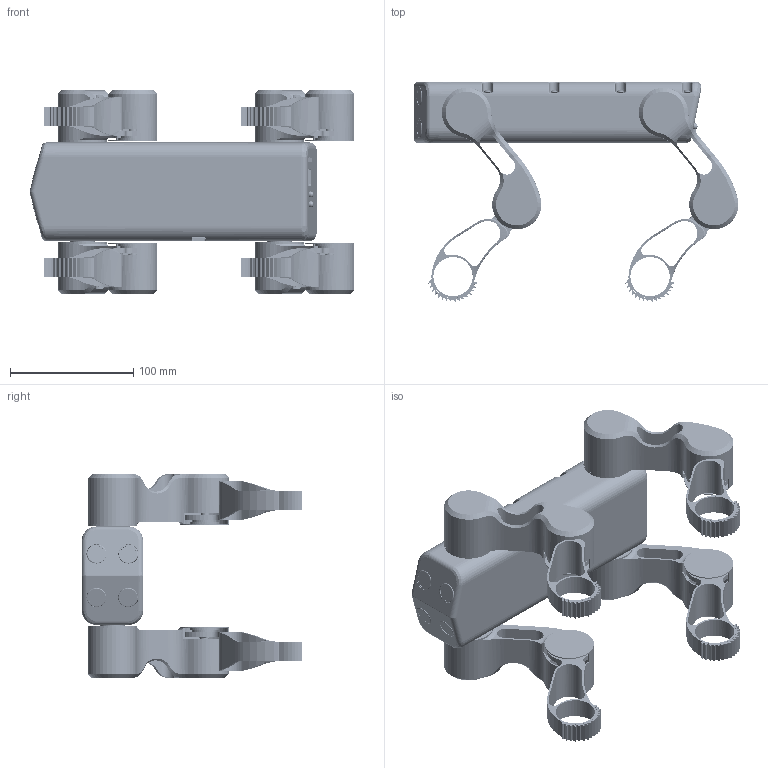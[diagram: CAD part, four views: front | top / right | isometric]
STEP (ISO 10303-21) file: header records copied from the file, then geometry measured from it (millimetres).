
FILE_DESCRIPTION((''),'2;1');
FILE_NAME('DOG_MKIII_ASM','2020-05-25T16:28:37',('New User'),(''),'CREO PARAMETRIC BY PTC INC, 2018420','CREO PARAMETRIC BY PTC INC, 2018420','');
FILE_SCHEMA(('CONFIG_CONTROL_DESIGN'));
Products named in the file (199): BODY_REMODEL; BODY_REMODEL_LID; THIGH_RH; MICROSERVOSG90; MICROSERVOARM_A2; MICROSERVOASSEMBLY_1_2_AF10_ASM; MICROSERVOASSEMBLY_AF10_ASM; MICROSERVOASSEMBLY_1_2_AF11_ASM; MICROSERVOASSEMBLY_AF11_ASM; SHOULDER_PIN; SHOULDER_COVER; LEG_KNEE_RH; WRIST_RH_1; FOOT_GRIP; RH_LEG_AF0_ASM; RH_LEG_AF1_ASM; THIGH_RH_MIR; LEG_KNEE_RH_MIR; WRIST_RH_1_MIR; MICROSERVOARM_A2_MIR; MICROSERVOASSEMBLY_1_2_MIR_ASM; MICROSERVOASSEMBLY_MIR_ASM; SHOULDER_COVER_MIR; SHOULDER_PIN_MIR; RH_LEG_REAL_AF0_ASM; RH_LEG_REAL_AF1_ASM; ARDUINOUNODETAILED; PCB; PADS-1157; PADS-1158; PADS-1159; PADS-1160; PADS-1161; PADS-1162; PADS-1163; PADS-1164; PADS-1165; PADS-1166; PADS-1167; PADS-1168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
Assembly tree (262 placements, depth 5):
  DOG_MKIII_ASM
    BODY_REMODEL
    BODY_REMODEL_LID
    RH_LEG_AF0_ASM
      THIGH_RH
      MICROSERVOASSEMBLY_AF10_ASM
        MICROSERVOASSEMBLY_1_2_AF10_ASM
          MICROSERVOSG90
          MICROSERVOARM_A2
      MICROSERVOASSEMBLY_AF11_ASM
        MICROSERVOASSEMBLY_1_2_AF11_ASM
          MICROSERVOSG90
          MICROSERVOARM_A2
      SHOULDER_PIN
      SHOULDER_COVER
      LEG_KNEE_RH
      WRIST_RH_1
      FOOT_GRIP
    RH_LEG_AF1_ASM
      THIGH_RH
      MICROSERVOASSEMBLY_AF10_ASM
        MICROSERVOASSEMBLY_1_2_AF10_ASM
          MICROSERVOSG90
          MICROSERVOARM_A2
      MICROSERVOASSEMBLY_AF11_ASM
        MICROSERVOASSEMBLY_1_2_AF11_ASM
          MICROSERVOSG90
          MICROSERVOARM_A2
      SHOULDER_PIN
      SHOULDER_COVER
      LEG_KNEE_RH
      WRIST_RH_1
      FOOT_GRIP
    RH_LEG_REAL_AF0_ASM
      THIGH_RH_MIR
      LEG_KNEE_RH_MIR
      WRIST_RH_1_MIR
      MICROSERVOASSEMBLY_MIR_ASM  x2
        MICROSERVOASSEMBLY_1_2_MIR_ASM
          MICROSERVOARM_A2_MIR
      SHOULDER_COVER_MIR
      SHOULDER_PIN_MIR
      FOOT_GRIP
    RH_LEG_REAL_AF1_ASM
      THIGH_RH_MIR
      LEG_KNEE_RH_MIR
      WRIST_RH_1_MIR
      MICROSERVOASSEMBLY_MIR_ASM  x2
        MICROSERVOASSEMBLY_1_2_MIR_ASM
          MICROSERVOARM_A2_MIR
      SHOULDER_COVER_MIR
      SHOULDER_PIN_MIR
      FOOT_GRIP
    ARDUINOUNODETAILED
    SUPERBOOST1000C_1_ASM
      PLACASUPERBOOST1000C_ASM
        PCB
        PADS-1157
        PADS-1158
        PADS-1159
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Bounding box: 263.91 x 179.41 x 165.1 mm (x, y, z)
Volume: 400327.7 mm3; surface area: 431813 mm2
Topology: 264 solids, 281 shells, 15379 faces, 40771 edges, 26059 vertices
Faces by surface type: plane 8149, cylinder 4181, bspline 2022, extrusion 459, torus 276, sphere 176, cone 116
Entity records: 315152 total; most frequent: CARTESIAN_POINT 85316, ORIENTED_EDGE 47951, DIRECTION 45036, EDGE_CURVE 23982, VECTOR 17316, LINE 16857, VERTEX_POINT 15619, AXIS2_PLACEMENT_3D 13860
